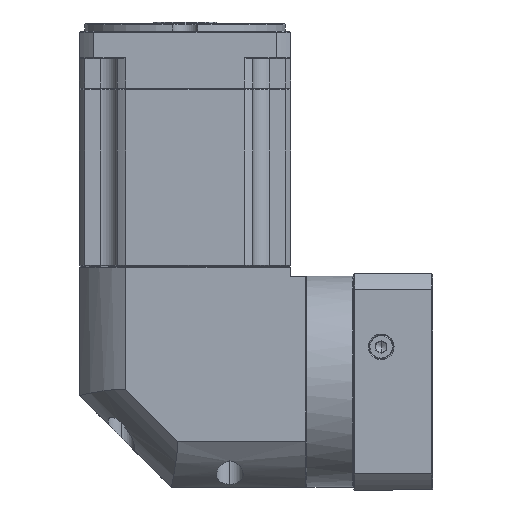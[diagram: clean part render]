
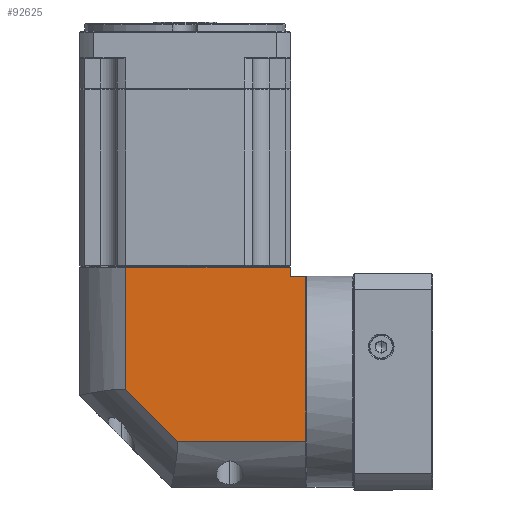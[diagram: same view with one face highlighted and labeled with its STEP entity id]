
A CAD part, left-side view. The second image highlights one B-rep face of the part: STEP entity #92625.
In plain terms, the highlighted planar face has unit normal (-1, 0, 0).
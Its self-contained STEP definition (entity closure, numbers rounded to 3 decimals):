
#2781 = DIRECTION ( 'NONE',  ( 0., 1., 0. ) ) ;
#4380 = EDGE_CURVE ( 'NONE', #72824, #22857, #87016, .T. ) ;
#9489 = LINE ( 'NONE', #36504, #100859 ) ;
#9848 = DIRECTION ( 'NONE',  ( 0., 0., 1. ) ) ;
#16347 = VECTOR ( 'NONE', #59984, 1000. ) ;
#18435 = DIRECTION ( 'NONE',  ( 0., 0.707, 0.707 ) ) ;
#20587 = ORIENTED_EDGE ( 'NONE', *, *, #40086, .F. ) ;
#22857 = VERTEX_POINT ( 'NONE', #121007 ) ;
#30915 = VECTOR ( 'NONE', #131304, 1000. ) ;
#32519 = DIRECTION ( 'NONE',  ( 0., 1., 0. ) ) ;
#36504 = CARTESIAN_POINT ( 'NONE',  ( -239.768, 12.282, 125.097 ) ) ;
#36540 = CARTESIAN_POINT ( 'NONE',  ( -239.768, -77.618, 113.597 ) ) ;
#37650 = EDGE_CURVE ( 'NONE', #163681, #131867, #140087, .T. ) ;
#40086 = EDGE_CURVE ( 'NONE', #131867, #106376, #42187, .T. ) ;
#42164 = CARTESIAN_POINT ( 'NONE',  ( -239.768, -16.056, 23.697 ) ) ;
#42187 = LINE ( 'NONE', #83160, #141871 ) ;
#44678 = CARTESIAN_POINT ( 'NONE',  ( -239.768, -77.618, 118.597 ) ) ;
#47015 = EDGE_CURVE ( 'NONE', #72824, #163681, #72872, .T. ) ;
#48281 = VECTOR ( 'NONE', #153487, 1000. ) ;
#51591 = AXIS2_PLACEMENT_3D ( 'NONE', #158157, #80426, #2781 ) ;
#53428 = CARTESIAN_POINT ( 'NONE',  ( -239.768, -77.618, -1.403 ) ) ;
#53921 = EDGE_LOOP ( 'NONE', ( #156883, #20587, #161577, #109061, #116080, #86087, #155871 ) ) ;
#59984 = DIRECTION ( 'NONE',  ( 0., -1., 0. ) ) ;
#65883 = CARTESIAN_POINT ( 'NONE',  ( -239.768, 12.282, 52.035 ) ) ;
#66797 = PLANE ( 'NONE',  #51591 ) ;
#71311 = DIRECTION ( 'NONE',  ( 0., 0., -1. ) ) ;
#72824 = VERTEX_POINT ( 'NONE', #79889 ) ;
#72872 = LINE ( 'NONE', #149028, #141936 ) ;
#73660 = LINE ( 'NONE', #53428, #30915 ) ;
#74224 = CARTESIAN_POINT ( 'NONE',  ( -239.768, -86.018, 23.697 ) ) ;
#74685 = EDGE_CURVE ( 'NONE', #124981, #101870, #115896, .T. ) ;
#79889 = CARTESIAN_POINT ( 'NONE',  ( -239.768, -86.018, 113.597 ) ) ;
#80426 = DIRECTION ( 'NONE',  ( 1., 0., 0. ) ) ;
#80548 = CARTESIAN_POINT ( 'NONE',  ( -239.768, 12.282, 118.597 ) ) ;
#83160 = CARTESIAN_POINT ( 'NONE',  ( -239.768, -16.056, 23.697 ) ) ;
#86087 = ORIENTED_EDGE ( 'NONE', *, *, #89889, .T. ) ;
#87016 = LINE ( 'NONE', #36540, #48281 ) ;
#89889 = EDGE_CURVE ( 'NONE', #22857, #101870, #73660, .T. ) ;
#92625 = ADVANCED_FACE ( 'NONE', ( #108563 ), #66797, .F. ) ;
#100859 = VECTOR ( 'NONE', #9848, 1000. ) ;
#101870 = VERTEX_POINT ( 'NONE', #44678 ) ;
#106376 = VERTEX_POINT ( 'NONE', #65883 ) ;
#108563 = FACE_OUTER_BOUND ( 'NONE', #53921, .T. ) ;
#109061 = ORIENTED_EDGE ( 'NONE', *, *, #47015, .F. ) ;
#110843 = CARTESIAN_POINT ( 'NONE',  ( -239.768, 37.382, 23.697 ) ) ;
#115896 = LINE ( 'NONE', #125385, #16347 ) ;
#116080 = ORIENTED_EDGE ( 'NONE', *, *, #4380, .T. ) ;
#121007 = CARTESIAN_POINT ( 'NONE',  ( -239.768, -77.618, 113.597 ) ) ;
#124981 = VERTEX_POINT ( 'NONE', #80548 ) ;
#125385 = CARTESIAN_POINT ( 'NONE',  ( -239.768, 37.382, 118.597 ) ) ;
#131304 = DIRECTION ( 'NONE',  ( 0., 0., 1. ) ) ;
#131867 = VERTEX_POINT ( 'NONE', #42164 ) ;
#136554 = EDGE_CURVE ( 'NONE', #106376, #124981, #9489, .T. ) ;
#140087 = LINE ( 'NONE', #110843, #144101 ) ;
#141871 = VECTOR ( 'NONE', #18435, 1000. ) ;
#141936 = VECTOR ( 'NONE', #71311, 1000. ) ;
#144101 = VECTOR ( 'NONE', #32519, 1000. ) ;
#149028 = CARTESIAN_POINT ( 'NONE',  ( -239.768, -86.018, 125.097 ) ) ;
#153487 = DIRECTION ( 'NONE',  ( 0., 1., 0. ) ) ;
#155871 = ORIENTED_EDGE ( 'NONE', *, *, #74685, .F. ) ;
#156883 = ORIENTED_EDGE ( 'NONE', *, *, #136554, .F. ) ;
#158157 = CARTESIAN_POINT ( 'NONE',  ( -239.768, 37.382, 125.097 ) ) ;
#161577 = ORIENTED_EDGE ( 'NONE', *, *, #37650, .F. ) ;
#163681 = VERTEX_POINT ( 'NONE', #74224 ) ;
